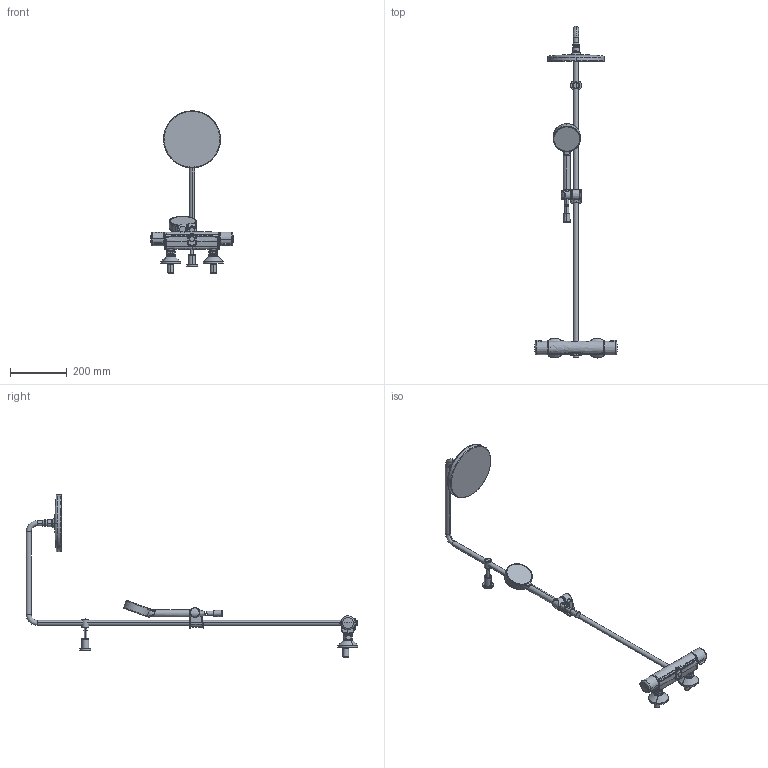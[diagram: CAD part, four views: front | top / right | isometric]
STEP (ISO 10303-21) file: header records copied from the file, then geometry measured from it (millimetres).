
FILE_DESCRIPTION (( 'STEP AP203' ), '1' );
FILE_NAME ('7402U(2020).STEP', '2019-11-12T07:57:14', ( '' ), ( '' ), 'SwSTEP 2.0', 'SolidWorks 2016', '' );
FILE_SCHEMA (( 'CONFIG_CONTROL_DESIGN' ));
Products named in the file (1): 7402U(2020)
Bounding box: 289.92 x 1165.16 x 570.2 mm (x, y, z)
Volume: 1868368.2 mm3; surface area: 392108.5 mm2
Topology: 26 solids, 32 shells, 936 faces, 2160 edges, 1294 vertices
Faces by surface type: bspline 332, cylinder 223, plane 142, cone 101, torus 100, sphere 38
Entity records: 68019 total; most frequent: CARTESIAN_POINT 49713, ORIENTED_EDGE 4284, DIRECTION 3124, EDGE_CURVE 2142, AXIS2_PLACEMENT_3D 1378, VERTEX_POINT 1292, EDGE_LOOP 960, ADVANCED_FACE 936
